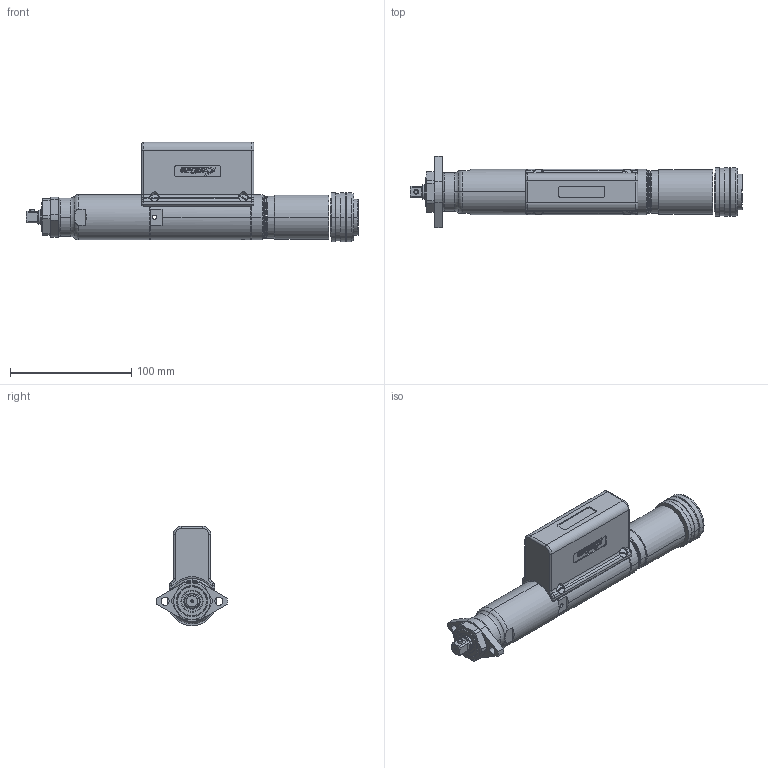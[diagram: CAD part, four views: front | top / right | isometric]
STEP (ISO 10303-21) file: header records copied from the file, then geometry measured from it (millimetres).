
FILE_DESCRIPTION (( 'STEP AP203' ), '1' );
FILE_NAME ('AEF4X12011B, AEF4X12014B, AEF4X12018B & AEF4X12022B.STEP', '2012-06-22T15:42:45', ( 'AIMCO' ), ( '' ), 'SwSTEP 2.0', 'SolidWorks 2012', '' );
FILE_SCHEMA (( 'CONFIG_CONTROL_DESIGN' ));
Length unit declared in the file: inch
Products named in the file (1): AEF4X12011B, AEF4X12014B, AEF4X12018B & AEF4X12022B
Bounding box: 274.33 x 58.71 x 82.09 mm (x, y, z)
Surface area: 60771 mm2 (no closed solid volume)
Topology: 0 solids, 75 shells, 836 faces, 3591 edges, 2810 vertices
Faces by surface type: plane 468, cylinder 191, torus 90, cone 77, bspline 6, sphere 4
Entity records: 38224 total; most frequent: CARTESIAN_POINT 9807, DIRECTION 5735, ORIENTED_EDGE 4935, EDGE_CURVE 3583, VERTEX_POINT 2806, LINE 2655, VECTOR 2655, AXIS2_PLACEMENT_3D 1540
